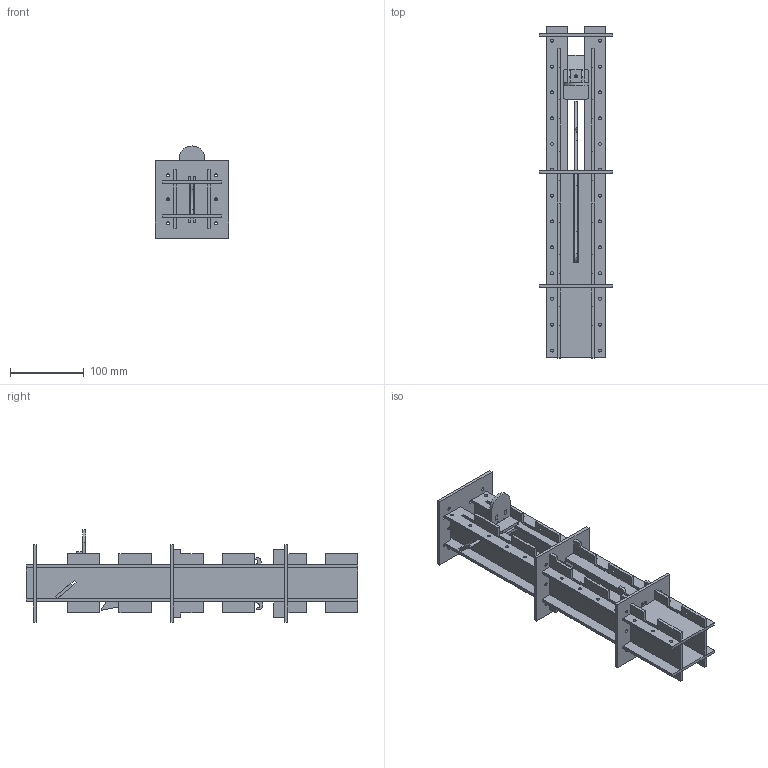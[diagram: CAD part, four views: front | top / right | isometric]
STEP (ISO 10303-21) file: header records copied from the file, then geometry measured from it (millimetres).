
FILE_DESCRIPTION(/* description */ (''),/* implementation_level */ '2;1');
FILE_NAME(/* name */ 'C:/Users/jakob/dev/fablabverket/students/100/web/assignments/week9/cad/Ball launcher assembly.stp',/* time_stamp */ '2017-03-31T14:39:46+02:00',/* author */ (''),/* organization */ (''),/* preprocessor_version */ 'ST-DEVELOPER v16.5',/* originating_system */ 'Autodesk Translation Framework v5.2.0.2920',/* authorisation */ '');
FILE_SCHEMA (('AUTOMOTIVE_DESIGN { 1 0 10303 214 3 1 1 }'));
Length unit declared in the file: millimetre
Products named in the file (16): assembly; bottom; lower_guide; front; back; wal2; top; mid; wall; sldier-base; sldier-base (1); outer_flat; second_ridge; inner_flat; first_ridge; hook
Assembly tree (15 placements, depth 3):
  assembly
    bottom
    lower_guide
    front
    back
    wal2
    top
    mid
    wall
    sldier-base
      sldier-base (1)
      outer_flat
      second_ridge
      inner_flat
      first_ridge
    hook
Bounding box: 100 x 450 x 124.89 mm (x, y, z)
Volume: 606860.1 mm3; surface area: 365481.6 mm2
Topology: 14 solids, 14 shells, 706 faces, 2034 edges, 1356 vertices
Faces by surface type: plane 600, cylinder 106
Full cylindrical faces by diameter (mm): 2 x7, 4 x57
Entity records: 23292 total; most frequent: CARTESIAN_POINT 4063, ORIENTED_EDGE 3940, DIRECTION 3656, EDGE_CURVE 1970, LINE 1758, VECTOR 1758, VERTEX_POINT 1356, EDGE_LOOP 970
